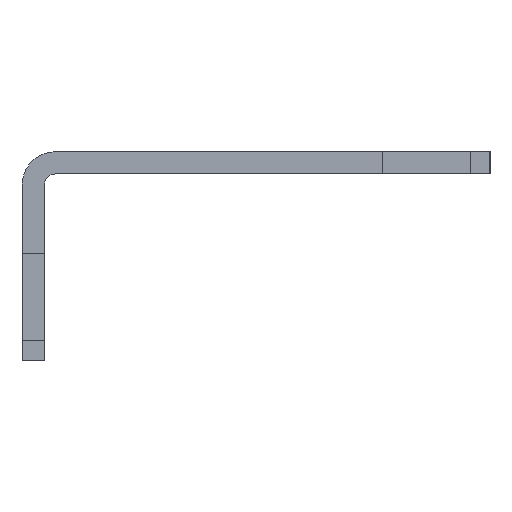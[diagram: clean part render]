
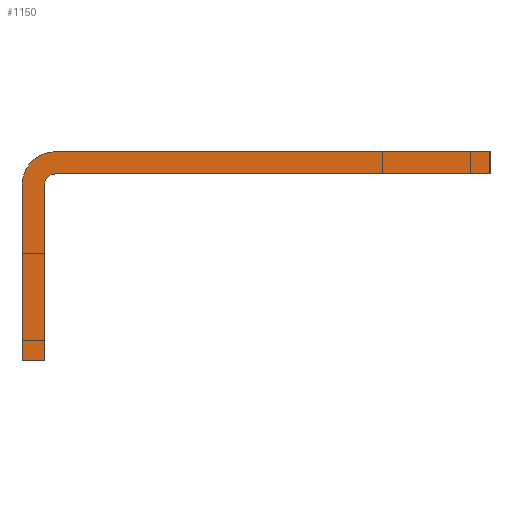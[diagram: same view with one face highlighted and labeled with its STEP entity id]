
A CAD part, left-side view. The second image highlights one B-rep face of the part: STEP entity #1150.
In plain terms, the highlighted planar face has unit normal (-1, 0, 0).
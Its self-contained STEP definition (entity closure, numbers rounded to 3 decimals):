
#1150 = ADVANCED_FACE( '', ( #3023 ), #3024, .T. );
#3023 = FACE_OUTER_BOUND( '', #5818, .T. );
#3024 = PLANE( '', #5819 );
#5818 = EDGE_LOOP( '', ( #9715, #9716, #9717, #9718, #9719, #9720, #9721, #9722 ) );
#5819 = AXIS2_PLACEMENT_3D( '', #9723, #9724, #9725 );
#9715 = ORIENTED_EDGE( '', *, *, #17074, .T. );
#9716 = ORIENTED_EDGE( '', *, *, #16164, .T. );
#9717 = ORIENTED_EDGE( '', *, *, #16819, .F. );
#9718 = ORIENTED_EDGE( '', *, *, #17075, .T. );
#9719 = ORIENTED_EDGE( '', *, *, #17076, .T. );
#9720 = ORIENTED_EDGE( '', *, *, #17077, .F. );
#9721 = ORIENTED_EDGE( '', *, *, #17078, .F. );
#9722 = ORIENTED_EDGE( '', *, *, #17079, .F. );
#9723 = CARTESIAN_POINT( '', ( -711.581, -25.4, 2.413 ) );
#9724 = DIRECTION( '', ( -1., 0., 0. ) );
#9725 = DIRECTION( '', ( 0., 0., 1. ) );
#16164 = EDGE_CURVE( '', #19486, #19490, #19492, .T. );
#16819 = EDGE_CURVE( '', #20681, #19490, #20682, .T. );
#17074 = EDGE_CURVE( '', #21086, #19486, #21087, .T. );
#17075 = EDGE_CURVE( '', #20681, #21088, #21089, .T. );
#17076 = EDGE_CURVE( '', #21088, #21090, #21091, .T. );
#17077 = EDGE_CURVE( '', #21092, #21090, #21093, .T. );
#17078 = EDGE_CURVE( '', #21094, #21092, #21095, .T. );
#17079 = EDGE_CURVE( '', #21086, #21094, #21096, .T. );
#19486 = VERTEX_POINT( '', #24403 );
#19490 = VERTEX_POINT( '', #24408 );
#19492 = CIRCLE( '', #24411, 3.632 );
#20681 = VERTEX_POINT( '', #26187 );
#20682 = LINE( '', #26188, #26189 );
#21086 = VERTEX_POINT( '', #26783 );
#21087 = LINE( '', #26784, #26785 );
#21088 = VERTEX_POINT( '', #26786 );
#21089 = LINE( '', #26787, #26788 );
#21090 = VERTEX_POINT( '', #26789 );
#21091 = LINE( '', #26790, #26791 );
#21092 = VERTEX_POINT( '', #26792 );
#21093 = CIRCLE( '', #26793, 1.219 );
#21094 = VERTEX_POINT( '', #26794 );
#21095 = LINE( '', #26795, #26796 );
#21096 = LINE( '', #26797, #26798 );
#24403 = CARTESIAN_POINT( '', ( -711.581, 21.768, 2.413 ) );
#24408 = CARTESIAN_POINT( '', ( -711.581, 25.4, -1.219 ) );
#24411 = AXIS2_PLACEMENT_3D( '', #31236, #31237, #31238 );
#26187 = CARTESIAN_POINT( '', ( -711.581, 25.4, -20.218 ) );
#26188 = CARTESIAN_POINT( '', ( -711.581, 25.4, 0.242 ) );
#26189 = VECTOR( '', #31826, 1000. );
#26783 = CARTESIAN_POINT( '', ( -711.581, -25.4, 2.413 ) );
#26784 = CARTESIAN_POINT( '', ( -711.581, -25.4, 2.413 ) );
#26785 = VECTOR( '', #32023, 1000. );
#26786 = CARTESIAN_POINT( '', ( -711.581, 22.987, -20.218 ) );
#26787 = CARTESIAN_POINT( '', ( -711.581, 25.4, -20.218 ) );
#26788 = VECTOR( '', #32024, 1000. );
#26789 = CARTESIAN_POINT( '', ( -711.581, 22.987, -1.219 ) );
#26790 = CARTESIAN_POINT( '', ( -711.581, 22.987, 0.242 ) );
#26791 = VECTOR( '', #32025, 1000. );
#26792 = CARTESIAN_POINT( '', ( -711.581, 21.768, 0. ) );
#26793 = AXIS2_PLACEMENT_3D( '', #32026, #32027, #32028 );
#26794 = CARTESIAN_POINT( '', ( -711.581, -25.4, 0. ) );
#26795 = CARTESIAN_POINT( '', ( -711.581, -25.4, 0. ) );
#26796 = VECTOR( '', #32029, 1000. );
#26797 = CARTESIAN_POINT( '', ( -711.581, -25.4, 2.413 ) );
#26798 = VECTOR( '', #32030, 1000. );
#31236 = CARTESIAN_POINT( '', ( -711.581, 21.768, -1.219 ) );
#31237 = DIRECTION( '', ( -1., 0., 0. ) );
#31238 = DIRECTION( '', ( 0., 0., -1. ) );
#31826 = DIRECTION( '', ( 0., 0., 1. ) );
#32023 = DIRECTION( '', ( 0., 1., 0. ) );
#32024 = DIRECTION( '', ( 0., -1., 0. ) );
#32025 = DIRECTION( '', ( 0., 0., 1. ) );
#32026 = CARTESIAN_POINT( '', ( -711.581, 21.768, -1.219 ) );
#32027 = DIRECTION( '', ( -1., 0., 0. ) );
#32028 = DIRECTION( '', ( 0., -1., 0. ) );
#32029 = DIRECTION( '', ( 0., 1., 0. ) );
#32030 = DIRECTION( '', ( 0., 0., -1. ) );
